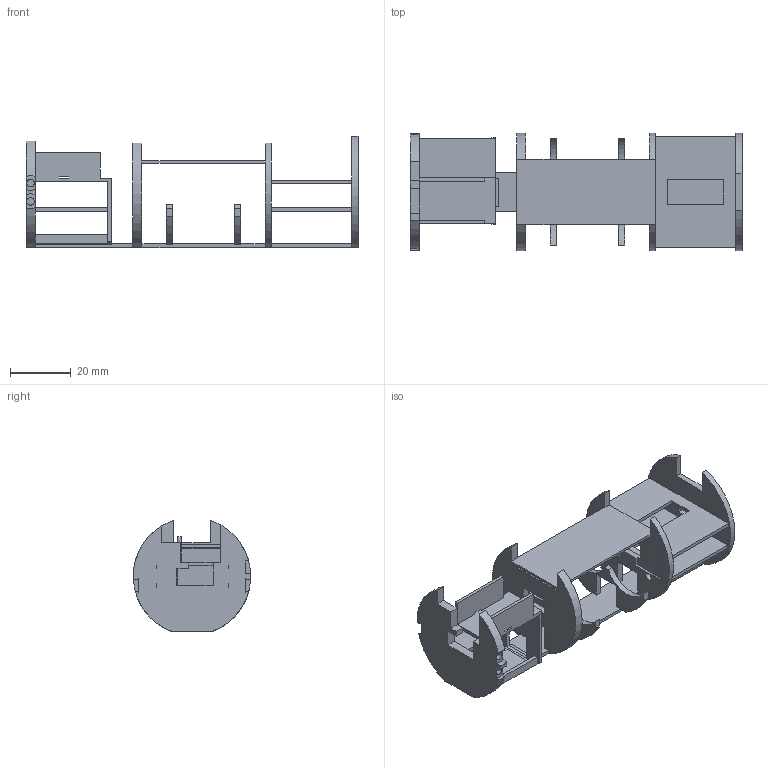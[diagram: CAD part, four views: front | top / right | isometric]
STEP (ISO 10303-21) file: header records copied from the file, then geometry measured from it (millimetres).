
FILE_DESCRIPTION(('Open CASCADE Model'),'2;1');
FILE_NAME('Open CASCADE Shape Model','2026-11-07T02:16:27',('Author'),( 'Open CASCADE'),'Open CASCADE STEP processor 8.0','build123d', 'Unknown');
FILE_SCHEMA(('AUTOMOTIVE_DESIGN { 1 0 10303 214 1 1 1 1 }'));
Length unit declared in the file: millimetre
Products named in the file (1): COMPOUND
Bounding box: 109.07 x 38.59 x 36.54 mm (x, y, z)
Volume: 14844 mm3; surface area: 21859.5 mm2
Topology: 1 solids, 1 shells, 209 faces, 681 edges, 450 vertices
Faces by surface type: plane 179, cylinder 30
Full cylindrical faces by diameter (mm): 2.5 x6
Entity records: 16185 total; most frequent: CARTESIAN_POINT 4000, DIRECTION 1816, ORIENTED_EDGE 1362, PCURVE 1362, DEFINITIONAL_REPRESENTATION 1362, LINE 1217, VECTOR 1217, B_SPLINE_CURVE_WITH_KNOTS 697
